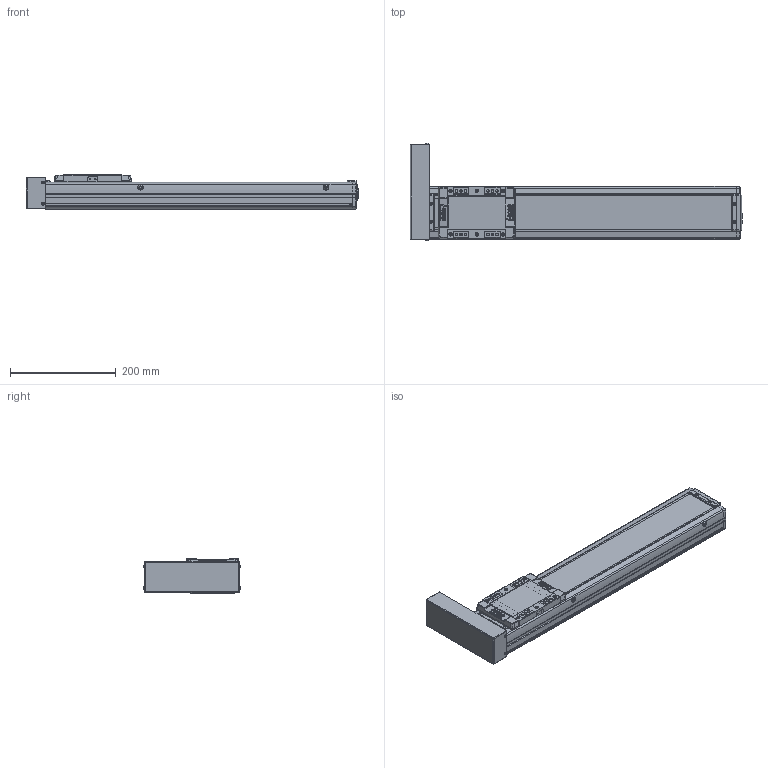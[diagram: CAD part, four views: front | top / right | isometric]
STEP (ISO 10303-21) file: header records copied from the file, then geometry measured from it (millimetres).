
FILE_DESCRIPTION(('STEP AP214'),'1');
FILE_NAME('Z:/Web/3D/SAN100/SAN100 양산용 (STEP)/SAN100ㅁㅁ-400PL.stp','2013-04-25T07:40:49',(' '),(' '),'Spatial InterOp 3D',' ',' ');
FILE_SCHEMA(('automotive_design'));
Length unit declared in the file: millimetre
Products named in the file (31): SUS COVER; SFX-SAN100; RRCV-SAN100; 스크루 : Round - M4.0 x 10.0; M3.0 x 6.0; 스크루 : Round - M3.0 x 6.0; FRBL-SAN100; SLBL-SAN100; SLCV-SAN100; 스크루 : Countersunk - M3.0 x 6.0; BASE; 스크루 : Round - M5.0 x 6.0; BTCV-SAN65; BHCS M3 X 6L
Bounding box: 626.5 x 184.13 x 66 mm (x, y, z)
Volume: 2034046.9 mm3; surface area: 465467 mm2
Topology: 31 solids, 32 shells, 1876 faces, 4896 edges, 3149 vertices
Faces by surface type: plane 929, cylinder 703, cone 166, sphere 44, torus 18, bspline 16
Entity records: 73994 total; most frequent: CARTESIAN_POINT 11226, DIRECTION 10315, ORIENTED_EDGE 9620, EDGE_CURVE 4810, AXIS2_PLACEMENT_3D 3699, VERTEX_POINT 3149, LINE 2917, VECTOR 2917
